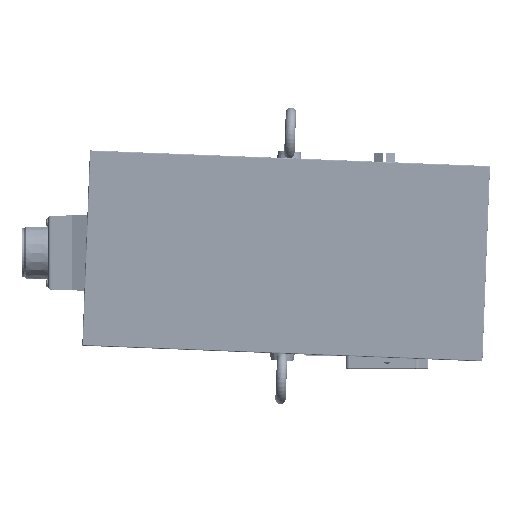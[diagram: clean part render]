
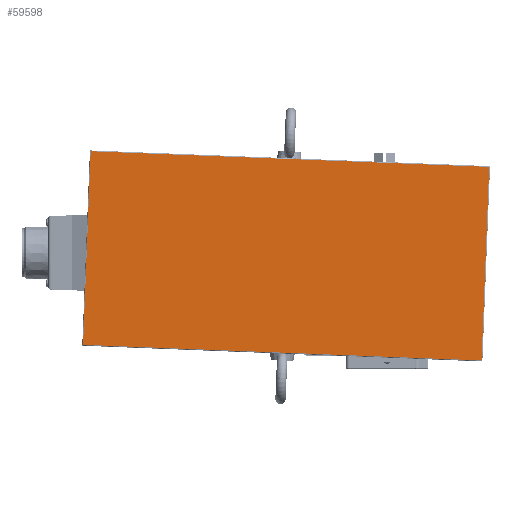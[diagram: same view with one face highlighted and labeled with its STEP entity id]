
A CAD part, top view. The second image highlights one B-rep face of the part: STEP entity #59598.
In plain terms, the highlighted planar face has unit normal (0, 0, 1).
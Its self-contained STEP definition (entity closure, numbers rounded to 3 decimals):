
#59559=CARTESIAN_POINT('',(-57.501,64.806,416.601));
#59560=DIRECTION('',(0.039,0.999,0.));
#59561=DIRECTION('',(0.,0.,-1.));
#59562=AXIS2_PLACEMENT_3D('',#59559,#59561,#59560);
#59563=PLANE('',#59562);
#59564=CARTESIAN_POINT('',(-183.675,-51.832,416.601));
#59565=VERTEX_POINT('',#59564);
#59566=CARTESIAN_POINT('',(-179.045,66.077,416.601));
#59567=VERTEX_POINT('',#59566);
#59568=CARTESIAN_POINT('',(-183.675,-51.832,416.601));
#59569=DIRECTION('',(0.039,0.999,0.));
#59570=VECTOR('',#59569,118.);
#59571=LINE('',#59568,#59570);
#59572=EDGE_CURVE('',#59565,#59567,#59571,.T.);
#59573=ORIENTED_EDGE('E69',*,*,#59572,.T.);
#59574=CARTESIAN_POINT('',(63.768,56.541,416.601));
#59575=VERTEX_POINT('',#59574);
#59576=CARTESIAN_POINT('',(-179.045,66.077,416.601));
#59577=DIRECTION('',(0.999,-0.039,0.));
#59578=VECTOR('',#59577,243.);
#59579=LINE('',#59576,#59578);
#59580=EDGE_CURVE('',#59567,#59575,#59579,.T.);
#59581=ORIENTED_EDGE('E74',*,*,#59580,.T.);
#59582=CARTESIAN_POINT('',(59.137,-61.368,416.601));
#59583=VERTEX_POINT('',#59582);
#59584=CARTESIAN_POINT('',(63.768,56.541,416.601));
#59585=DIRECTION('',(-0.039,-0.999,0.));
#59586=VECTOR('',#59585,118.);
#59587=LINE('',#59584,#59586);
#59588=EDGE_CURVE('',#59575,#59583,#59587,.T.);
#59589=ORIENTED_EDGE('E76',*,*,#59588,.T.);
#59590=CARTESIAN_POINT('',(59.137,-61.368,416.601));
#59591=DIRECTION('',(-0.999,0.039,0.));
#59592=VECTOR('',#59591,243.);
#59593=LINE('',#59590,#59592);
#59594=EDGE_CURVE('',#59583,#59565,#59593,.T.);
#59595=ORIENTED_EDGE('E72',*,*,#59594,.T.);
#59596=EDGE_LOOP('',(#59573,#59581,#59589,#59595));
#59597=FACE_OUTER_BOUND('',#59596,.F.);
#59598=ADVANCED_FACE('F8',(#59597),#59563,.F.);
